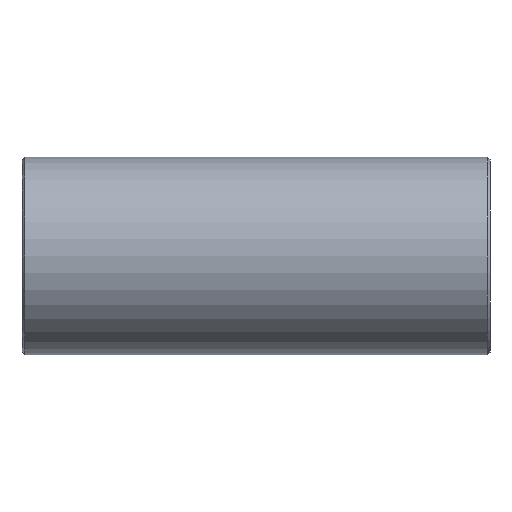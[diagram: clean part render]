
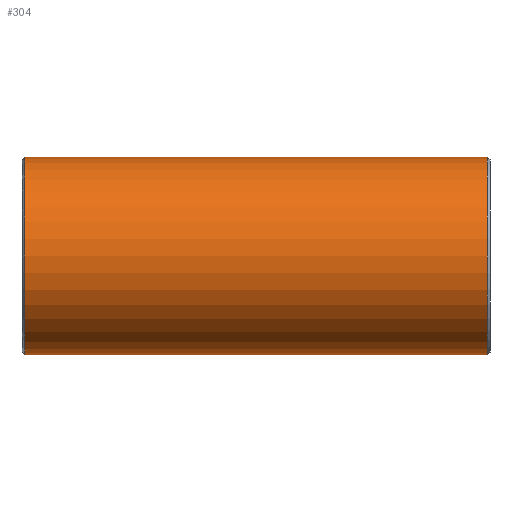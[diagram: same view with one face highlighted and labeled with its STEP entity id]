
A CAD part, front view. The second image highlights one B-rep face of the part: STEP entity #304.
In plain terms, the highlighted cylindrical face has radius 7.26 mm (diameter 14.52 mm), a full revolution.
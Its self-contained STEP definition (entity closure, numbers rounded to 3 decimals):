
#121=CARTESIAN_POINT('',(0.0,0.0,7.26));
#122=VERTEX_POINT('',#121);
#123=CARTESIAN_POINT('',(0.0,0.0,-7.26));
#124=VERTEX_POINT('',#123);
#221=CARTESIAN_POINT('',(-17.0,7.26,0.));
#222=VERTEX_POINT('',#221);
#223=CARTESIAN_POINT('',(-17.0,0.0,0.0));
#224=DIRECTION('',(-1.0,0.0,0.0));
#225=DIRECTION('',(0.0,-1.0,0.0));
#226=AXIS2_PLACEMENT_3D('',#223,#224,#225);
#227=CIRCLE('',#226,7.26);
#228=EDGE_CURVE('',#222,#222,#227,.T.);
#233=CARTESIAN_POINT('',(0.0,0.0,0.0));
#234=DIRECTION('',(1.0,0.0,0.0));
#235=DIRECTION('',(0.0,1.0,0.0));
#236=AXIS2_PLACEMENT_3D('',#233,#234,#235);
#237=CYLINDRICAL_SURFACE('',#236,7.26);
#238=CARTESIAN_POINT('',(17.,7.26,0.));
#239=VERTEX_POINT('',#238);
#240=CARTESIAN_POINT('',(17.,0.0,0.0));
#241=DIRECTION('',(1.0,0.0,0.0));
#242=DIRECTION('',(0.0,-1.0,0.0));
#243=AXIS2_PLACEMENT_3D('',#240,#241,#242);
#244=CIRCLE('',#243,7.26);
#245=EDGE_CURVE('',#239,#239,#244,.T.);
#246=ORIENTED_EDGE('',*,*,#245,.F.);
#247=EDGE_LOOP('',(#246));
#248=FACE_OUTER_BOUND('',#247,.T.);
#249=CARTESIAN_POINT('',(7.272,5.702,4.494));
#250=VERTEX_POINT('',#249);
#251=CARTESIAN_POINT('',(0.0,0.0,0.0));
#252=DIRECTION('',(-0.617,0.787,0.0));
#253=DIRECTION('',(0.787,0.617,0.0));
#254=AXIS2_PLACEMENT_3D('',#251,#252,#253);
#255=ELLIPSE('',#254,11.767,7.26);
#256=EDGE_CURVE('',#122,#250,#255,.T.);
#257=ORIENTED_EDGE('',*,*,#256,.F.);
#258=CARTESIAN_POINT('',(-7.272,5.702,4.494));
#259=VERTEX_POINT('',#258);
#260=CARTESIAN_POINT('',(0.0,0.0,0.0));
#261=DIRECTION('',(0.617,0.787,0.0));
#262=DIRECTION('',(-0.787,0.617,0.0));
#263=AXIS2_PLACEMENT_3D('',#260,#261,#262);
#264=ELLIPSE('',#263,11.767,7.26);
#265=EDGE_CURVE('',#259,#122,#264,.T.);
#266=ORIENTED_EDGE('',*,*,#265,.F.);
#267=CARTESIAN_POINT('',(-7.272,5.702,-4.494));
#268=VERTEX_POINT('',#267);
#269=CARTESIAN_POINT('',(0.0,0.0,0.0));
#270=DIRECTION('',(0.617,0.787,0.0));
#271=DIRECTION('',(-0.787,0.617,0.0));
#272=AXIS2_PLACEMENT_3D('',#269,#270,#271);
#273=ELLIPSE('',#272,11.767,7.26);
#274=EDGE_CURVE('',#268,#259,#273,.T.);
#275=ORIENTED_EDGE('',*,*,#274,.F.);
#276=CARTESIAN_POINT('',(0.0,0.0,0.0));
#277=DIRECTION('',(0.617,0.787,0.0));
#278=DIRECTION('',(-0.787,0.617,0.0));
#279=AXIS2_PLACEMENT_3D('',#276,#277,#278);
#280=ELLIPSE('',#279,11.767,7.26);
#281=EDGE_CURVE('',#124,#268,#280,.T.);
#282=ORIENTED_EDGE('',*,*,#281,.F.);
#283=CARTESIAN_POINT('',(7.272,5.702,-4.494));
#284=VERTEX_POINT('',#283);
#285=CARTESIAN_POINT('',(0.0,0.0,0.0));
#286=DIRECTION('',(-0.617,0.787,0.0));
#287=DIRECTION('',(0.787,0.617,0.0));
#288=AXIS2_PLACEMENT_3D('',#285,#286,#287);
#289=ELLIPSE('',#288,11.767,7.26);
#290=EDGE_CURVE('',#284,#124,#289,.T.);
#291=ORIENTED_EDGE('',*,*,#290,.F.);
#292=CARTESIAN_POINT('',(0.0,0.0,0.0));
#293=DIRECTION('',(-0.617,0.787,0.0));
#294=DIRECTION('',(0.787,0.617,0.0));
#295=AXIS2_PLACEMENT_3D('',#292,#293,#294);
#296=ELLIPSE('',#295,11.767,7.26);
#297=EDGE_CURVE('',#250,#284,#296,.T.);
#298=ORIENTED_EDGE('',*,*,#297,.F.);
#299=EDGE_LOOP('',(#257,#266,#275,#282,#291,#298));
#300=FACE_BOUND('',#299,.T.);
#301=ORIENTED_EDGE('',*,*,#228,.F.);
#302=EDGE_LOOP('',(#301));
#303=FACE_BOUND('',#302,.T.);
#304=ADVANCED_FACE('',(#248,#300,#303),#237,.T.);
